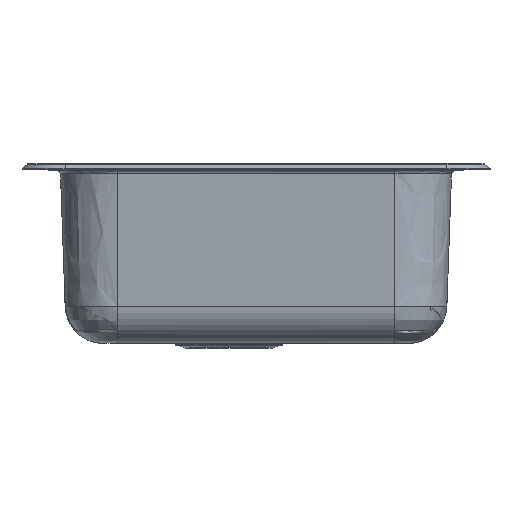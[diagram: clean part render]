
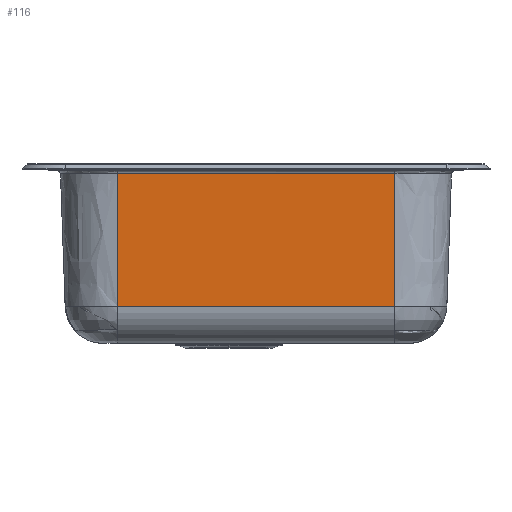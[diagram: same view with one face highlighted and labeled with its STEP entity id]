
A CAD part, left-side view. The second image highlights one B-rep face of the part: STEP entity #116.
In plain terms, the highlighted planar face has unit normal (-0.999, 0, -0.035).
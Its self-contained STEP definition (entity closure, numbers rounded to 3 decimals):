
#116=ADVANCED_FACE('',(#415),#416,.T.);
#415=FACE_OUTER_BOUND('',#5244,.T.);
#416=PLANE('',#5245);
#5244=EDGE_LOOP('',(#14004,#14005,#14006,#14007));
#5245=AXIS2_PLACEMENT_3D('',#14008,#14009,#14010);
#14004=ORIENTED_EDGE('',*,*,#15404,.T.);
#14005=ORIENTED_EDGE('',*,*,#15437,.T.);
#14006=ORIENTED_EDGE('',*,*,#15438,.T.);
#14007=ORIENTED_EDGE('',*,*,#15435,.F.);
#14008=CARTESIAN_POINT('',(-357.482,0.,-89.228));
#14009=DIRECTION('',(-0.999,0.0,-0.035));
#14010=DIRECTION('',(-0.035,0.0,0.999));
#15404=EDGE_CURVE('',#16024,#16027,#16029,.T.);
#15435=EDGE_CURVE('',#16024,#16075,#16076,.T.);
#15437=EDGE_CURVE('',#16027,#16078,#16079,.T.);
#15438=EDGE_CURVE('',#16078,#16075,#16080,.F.);
#16024=VERTEX_POINT('',#18065);
#16027=VERTEX_POINT('',#18102);
#16029=LINE('',#18104,#18105);
#16075=VERTEX_POINT('',#18368);
#16076=B_SPLINE_CURVE_WITH_KNOTS('',1,(#18369,#18370),.UNSPECIFIED.,.F.,.F.,(2,2),(38.628,179.477),.UNSPECIFIED.);
#16078=VERTEX_POINT('',#18404);
#16079=LINE('',#18405,#18406);
#16080=LINE('',#18407,#18408);
#18065=CARTESIAN_POINT('',(-355.513,147.5,-145.624));
#18102=CARTESIAN_POINT('',(-355.513,-147.5,-145.624));
#18104=CARTESIAN_POINT('',(-355.513,0.,-145.624));
#18105=VECTOR('',#22468,1.0);
#18368=CARTESIAN_POINT('',(-360.428,147.5,-4.86));
#18369=CARTESIAN_POINT('',(-355.513,147.5,-145.624));
#18370=CARTESIAN_POINT('',(-360.428,147.5,-4.86));
#18404=CARTESIAN_POINT('',(-360.428,-147.5,-4.86));
#18405=CARTESIAN_POINT('',(-357.97,-147.5,-75.242));
#18406=VECTOR('',#22484,1.0);
#18407=CARTESIAN_POINT('',(-360.428,0.,-4.86));
#18408=VECTOR('',#22485,1.0);
#22468=DIRECTION('',(0.0,-1.0,0.0));
#22484=DIRECTION('',(-0.035,0.0,0.999));
#22485=DIRECTION('',(0.0,-1.0,0.0));
